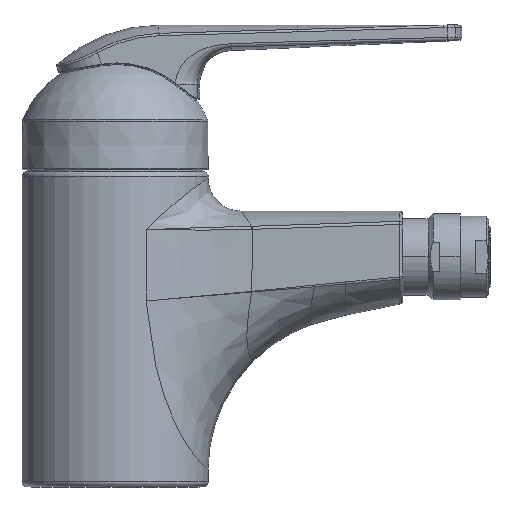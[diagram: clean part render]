
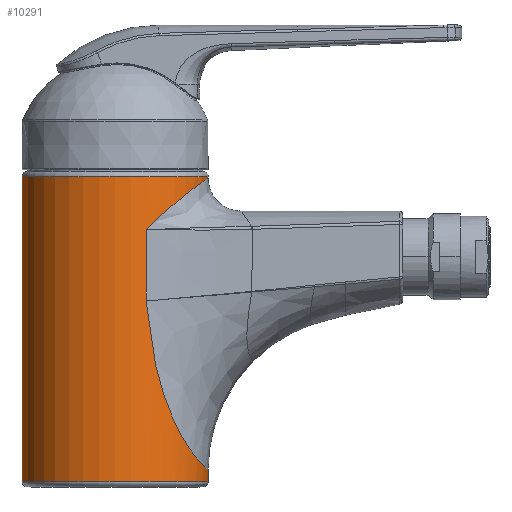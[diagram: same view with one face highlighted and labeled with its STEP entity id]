
A CAD part, top view. The second image highlights one B-rep face of the part: STEP entity #10291.
In plain terms, the highlighted cylindrical face has radius 27.5 mm (diameter 55 mm), a partial arc.
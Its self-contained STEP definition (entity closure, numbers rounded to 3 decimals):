
#2384=DIRECTION('',(0.,-1.,0.));
#2385=VECTOR('',#2384,90.2);
#2386=CARTESIAN_POINT('',(-27.5,89.2,0.));
#2387=LINE('',#2386,#2385);
#2393=DIRECTION('',(0.,-1.,0.));
#2394=VECTOR('',#2393,3.5);
#2395=CARTESIAN_POINT('',(27.5,2.5,0.));
#2396=LINE('',#2395,#2394);
#2484=DIRECTION('',(0.,-1.,0.));
#2485=VECTOR('',#2484,0.4);
#2486=CARTESIAN_POINT('',(27.5,89.2,0.));
#2487=LINE('',#2486,#2485);
#2685=CARTESIAN_POINT('',(0.,89.2,0.));
#2686=DIRECTION('',(0.,-1.,0.));
#2687=DIRECTION('',(1.,0.,0.));
#2688=AXIS2_PLACEMENT_3D('',#2685,#2686,#2687);
#2690=CARTESIAN_POINT('',(27.5,88.8,0.));
#2691=CARTESIAN_POINT('',(27.5,88.8,0.367));
#2692=CARTESIAN_POINT('',(27.485,88.79,1.1));
#2693=CARTESIAN_POINT('',(27.419,88.744,2.201));
#2694=CARTESIAN_POINT('',(27.309,88.667,3.3));
#2695=CARTESIAN_POINT('',(27.154,88.559,4.395));
#2696=CARTESIAN_POINT('',(26.955,88.42,5.485));
#2697=CARTESIAN_POINT('',(26.712,88.25,6.567));
#2698=CARTESIAN_POINT('',(26.425,88.048,7.64));
#2699=CARTESIAN_POINT('',(26.095,87.814,8.7));
#2700=CARTESIAN_POINT('',(25.722,87.547,9.748));
#2701=CARTESIAN_POINT('',(25.306,87.248,10.782));
#2702=CARTESIAN_POINT('',(24.848,86.913,11.799));
#2703=CARTESIAN_POINT('',(24.347,86.543,12.803));
#2704=CARTESIAN_POINT('',(23.801,86.135,13.792));
#2705=CARTESIAN_POINT('',(23.209,85.688,14.766));
#2706=CARTESIAN_POINT('',(22.572,85.201,15.723));
#2707=CARTESIAN_POINT('',(21.891,84.675,16.658));
#2708=CARTESIAN_POINT('',(21.167,84.109,17.569));
#2709=CARTESIAN_POINT('',(20.4,83.503,18.453));
#2710=CARTESIAN_POINT('',(19.592,82.853,19.31));
#2711=CARTESIAN_POINT('',(18.743,82.159,20.135));
#2712=CARTESIAN_POINT('',(17.853,81.416,20.929));
#2713=CARTESIAN_POINT('',(16.919,80.623,21.691));
#2714=CARTESIAN_POINT('',(15.939,79.774,22.421));
#2715=CARTESIAN_POINT('',(14.912,78.868,23.117));
#2716=CARTESIAN_POINT('',(13.841,77.906,23.774));
#2717=CARTESIAN_POINT('',(12.727,76.885,24.389));
#2718=CARTESIAN_POINT('',(11.575,75.804,24.956));
#2719=CARTESIAN_POINT('',(10.388,74.664,25.474));
#2720=CARTESIAN_POINT('',(9.576,73.863,25.782));
#2721=CARTESIAN_POINT('',(9.166,73.453,25.927));
#2723=CARTESIAN_POINT('',(9.166,73.453,25.927));
#2724=CARTESIAN_POINT('',(9.17,66.435,25.926));
#2725=CARTESIAN_POINT('',(9.175,59.418,25.924));
#2726=CARTESIAN_POINT('',(9.179,52.401,25.923));
#2728=CARTESIAN_POINT('',(9.179,52.401,25.923));
#2729=CARTESIAN_POINT('',(9.242,51.683,25.901));
#2730=CARTESIAN_POINT('',(9.377,50.241,25.852));
#2731=CARTESIAN_POINT('',(9.609,48.052,25.767));
#2732=CARTESIAN_POINT('',(9.87,45.869,25.668));
#2733=CARTESIAN_POINT('',(10.158,43.713,25.556));
#2734=CARTESIAN_POINT('',(10.47,41.61,25.43));
#2735=CARTESIAN_POINT('',(10.807,39.552,25.289));
#2736=CARTESIAN_POINT('',(11.17,37.533,25.13));
#2737=CARTESIAN_POINT('',(11.562,35.547,24.953));
#2738=CARTESIAN_POINT('',(11.982,33.591,24.754));
#2739=CARTESIAN_POINT('',(12.431,31.669,24.532));
#2740=CARTESIAN_POINT('',(12.909,29.784,24.284));
#2741=CARTESIAN_POINT('',(13.415,27.942,24.009));
#2742=CARTESIAN_POINT('',(13.949,26.145,23.703));
#2743=CARTESIAN_POINT('',(14.51,24.392,23.364));
#2744=CARTESIAN_POINT('',(15.098,22.686,22.988));
#2745=CARTESIAN_POINT('',(15.713,21.024,22.573));
#2746=CARTESIAN_POINT('',(16.35,19.423,22.116));
#2747=CARTESIAN_POINT('',(17.001,17.899,21.621));
#2748=CARTESIAN_POINT('',(17.653,16.469,21.091));
#2749=CARTESIAN_POINT('',(18.297,15.143,20.536));
#2750=CARTESIAN_POINT('',(18.928,13.916,19.956));
#2751=CARTESIAN_POINT('',(19.544,12.786,19.353));
#2752=CARTESIAN_POINT('',(20.141,11.75,18.73));
#2753=CARTESIAN_POINT('',(20.718,10.798,18.091));
#2754=CARTESIAN_POINT('',(21.274,9.923,17.433));
#2755=CARTESIAN_POINT('',(21.811,9.113,16.757));
#2756=CARTESIAN_POINT('',(22.33,8.362,16.058));
#2757=CARTESIAN_POINT('',(22.831,7.67,15.337));
#2758=CARTESIAN_POINT('',(23.312,7.032,14.596));
#2759=CARTESIAN_POINT('',(23.772,6.447,13.835));
#2760=CARTESIAN_POINT('',(24.209,5.911,13.056));
#2761=CARTESIAN_POINT('',(24.622,5.42,12.258));
#2762=CARTESIAN_POINT('',(25.012,4.971,11.441));
#2763=CARTESIAN_POINT('',(25.38,4.563,10.602));
#2764=CARTESIAN_POINT('',(25.723,4.195,9.741));
#2765=CARTESIAN_POINT('',(26.041,3.866,8.856));
#2766=CARTESIAN_POINT('',(26.332,3.574,7.949));
#2767=CARTESIAN_POINT('',(26.596,3.318,7.017));
#2768=CARTESIAN_POINT('',(26.829,3.095,6.064));
#2769=CARTESIAN_POINT('',(27.031,2.907,5.09));
#2770=CARTESIAN_POINT('',(27.199,2.755,4.098));
#2771=CARTESIAN_POINT('',(27.332,2.639,3.091));
#2772=CARTESIAN_POINT('',(27.428,2.557,2.07));
#2773=CARTESIAN_POINT('',(27.487,2.51,1.039));
#2774=CARTESIAN_POINT('',(27.5,2.5,0.347));
#2775=CARTESIAN_POINT('',(27.5,2.5,0.));
#2777=CARTESIAN_POINT('',(0.,-1.,0.));
#2778=DIRECTION('',(0.,-1.,0.));
#2779=DIRECTION('',(1.,0.,0.));
#2780=AXIS2_PLACEMENT_3D('',#2777,#2778,#2779);
#2816=CARTESIAN_POINT('',(27.5,88.8,0.));
#2904=CARTESIAN_POINT('',(27.5,2.5,0.));
#2932=CARTESIAN_POINT('',(9.179,52.401,25.923));
#2953=CARTESIAN_POINT('',(9.166,73.453,25.927));
#5160=VERTEX_POINT('',#2953);
#5163=VERTEX_POINT('',#2932);
#5176=VERTEX_POINT('',#2904);
#5178=VERTEX_POINT('',#2816);
#5179=CARTESIAN_POINT('',(-27.5,89.2,0.));
#5180=CARTESIAN_POINT('',(27.5,89.2,0.));
#5181=VERTEX_POINT('',#5179);
#5182=VERTEX_POINT('',#5180);
#5191=CARTESIAN_POINT('',(27.5,-1.,0.));
#5192=CARTESIAN_POINT('',(-27.5,-1.,0.));
#5193=VERTEX_POINT('',#5191);
#5194=VERTEX_POINT('',#5192);
#10271=CARTESIAN_POINT('',(0.,106.53,0.));
#10272=DIRECTION('',(0.,1.,0.));
#10273=DIRECTION('',(-1.,0.,0.));
#10274=AXIS2_PLACEMENT_3D('',#10271,#10272,#10273);
#10275=CYLINDRICAL_SURFACE('',#10274,27.5);
#10277=ORIENTED_EDGE('',*,*,#10276,.F.);
#10278=ORIENTED_EDGE('',*,*,#10238,.T.);
#10280=ORIENTED_EDGE('',*,*,#10279,.T.);
#10282=ORIENTED_EDGE('',*,*,#10281,.T.);
#10284=ORIENTED_EDGE('',*,*,#10283,.T.);
#10285=ORIENTED_EDGE('',*,*,#10230,.T.);
#10287=ORIENTED_EDGE('',*,*,#10286,.T.);
#10288=ORIENTED_EDGE('',*,*,#10226,.F.);
#10289=EDGE_LOOP('',(#10277,#10278,#10280,#10282,#10284,#10285,#10287,#10288));
#10290=FACE_OUTER_BOUND('',#10289,.F.);
#2689=CIRCLE('',#2688,27.5);
#2722=B_SPLINE_CURVE_WITH_KNOTS('',3,(#2690,#2691,#2692,#2693,#2694,#2695,#2696,
#2697,#2698,#2699,#2700,#2701,#2702,#2703,#2704,#2705,#2706,#2707,#2708,#2709,
#2710,#2711,#2712,#2713,#2714,#2715,#2716,#2717,#2718,#2719,#2720,#2721),
.UNSPECIFIED.,.F.,.F.,(4,1,1,1,1,1,1,1,1,1,1,1,1,1,1,1,1,1,1,1,1,1,1,1,1,1,1,1,
1,4),(0.,0.034,0.069,0.103,
0.138,0.172,0.207,0.241,
0.276,0.31,0.345,0.379,
0.414,0.448,0.483,0.517,
0.552,0.586,0.621,0.655,
0.69,0.724,0.759,0.793,
0.828,0.862,0.897,0.931,
0.966,1.),.UNSPECIFIED.);
#2727=B_SPLINE_CURVE_WITH_KNOTS('',3,(#2723,#2724,#2725,#2726),.UNSPECIFIED.,
.F.,.F.,(4,4),(0.,1.),.UNSPECIFIED.);
#2776=B_SPLINE_CURVE_WITH_KNOTS('',3,(#2728,#2729,#2730,#2731,#2732,#2733,#2734,
#2735,#2736,#2737,#2738,#2739,#2740,#2741,#2742,#2743,#2744,#2745,#2746,#2747,
#2748,#2749,#2750,#2751,#2752,#2753,#2754,#2755,#2756,#2757,#2758,#2759,#2760,
#2761,#2762,#2763,#2764,#2765,#2766,#2767,#2768,#2769,#2770,#2771,#2772,#2773,
#2774,#2775),.UNSPECIFIED.,.F.,.F.,(4,1,1,1,1,1,1,1,1,1,1,1,1,1,1,1,1,1,1,1,1,1,
1,1,1,1,1,1,1,1,1,1,1,1,1,1,1,1,1,1,1,1,1,1,1,4),(0.,0.022,
0.044,0.067,0.089,0.111,
0.133,0.156,0.178,0.2,0.222,
0.244,0.267,0.289,0.311,
0.333,0.356,0.378,0.4,0.422,
0.444,0.467,0.489,0.511,
0.533,0.556,0.578,0.6,0.622,
0.644,0.667,0.689,0.711,
0.733,0.756,0.778,0.8,0.822,
0.844,0.867,0.889,0.911,
0.933,0.956,0.978,1.),.UNSPECIFIED.);
#2781=CIRCLE('',#2780,27.5);
#10226=EDGE_CURVE('',#5181,#5194,#2387,.T.);
#10230=EDGE_CURVE('',#5176,#5193,#2396,.T.);
#10238=EDGE_CURVE('',#5182,#5178,#2487,.T.);
#10276=EDGE_CURVE('',#5182,#5181,#2689,.T.);
#10279=EDGE_CURVE('',#5178,#5160,#2722,.T.);
#10281=EDGE_CURVE('',#5160,#5163,#2727,.T.);
#10283=EDGE_CURVE('',#5163,#5176,#2776,.T.);
#10286=EDGE_CURVE('',#5193,#5194,#2781,.T.);
#10291=ADVANCED_FACE('',(#10290),#10275,.T.);
